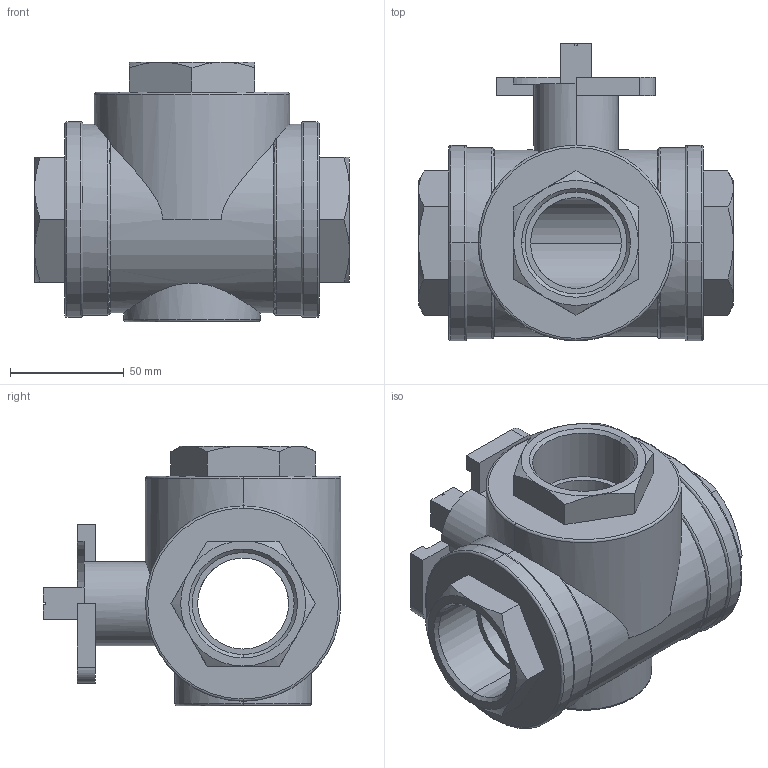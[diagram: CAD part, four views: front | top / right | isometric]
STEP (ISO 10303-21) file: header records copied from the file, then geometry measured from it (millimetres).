
FILE_DESCRIPTION (( 'STEP AP214' ), '1' );
FILE_NAME ('Ballvalve A35-DN40 G1 1_2.step', '2010-09-23T08:41:19', ( '' ), ( '' ), 'SwSTEP 2.0', 'SolidWorks 2010', '' );
FILE_SCHEMA (( 'AUTOMOTIVE_DESIGN' ));
Length unit declared in the file: millimetre
Products named in the file (1): Ballvalve A35-DN40 G1 1_2
Bounding box: 138.5 x 131 x 114.25 mm (x, y, z)
Volume: 645585.1 mm3; surface area: 88749.7 mm2
Topology: 1 solids, 1 shells, 126 faces, 307 edges, 189 vertices
Faces by surface type: plane 51, cylinder 36, cone 24, torus 15
Entity records: 4382 total; most frequent: CARTESIAN_POINT 1339, DIRECTION 614, ORIENTED_EDGE 614, EDGE_CURVE 307, AXIS2_PLACEMENT_3D 238, VERTEX_POINT 189, EDGE_LOOP 142, VECTOR 138
